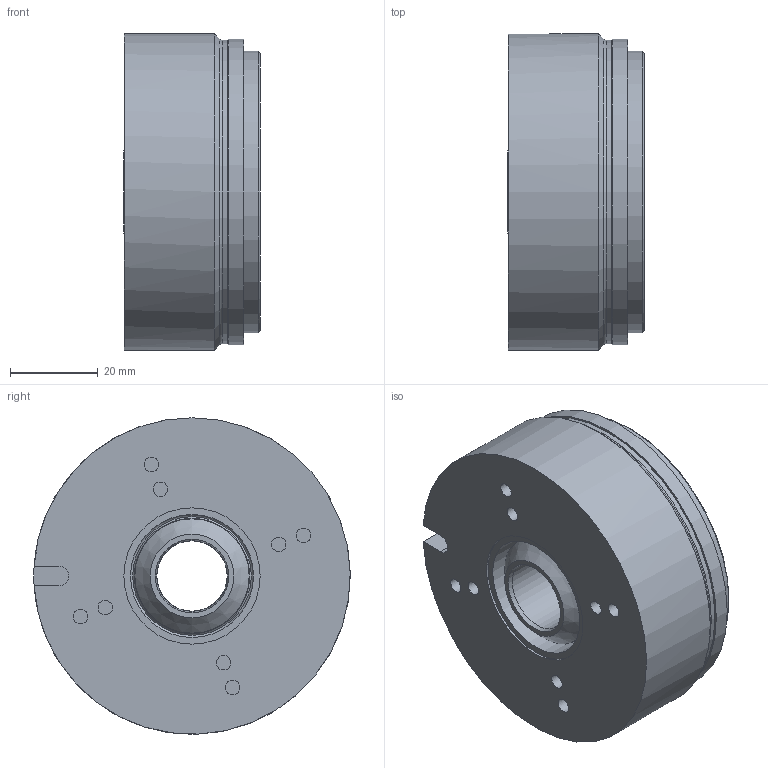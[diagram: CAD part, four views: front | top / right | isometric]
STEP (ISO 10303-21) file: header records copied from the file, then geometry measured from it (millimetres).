
FILE_DESCRIPTION (( 'STEP AP214' ), '1' );
FILE_NAME ('86 61107P00-0007_Index f.STEP', '2019-12-11T14:29:55', ( '' ), ( '' ), 'SwSTEP 2.0', 'SolidWorks 2018', '' );
FILE_SCHEMA (( 'AUTOMOTIVE_DESIGN' ));
Length unit declared in the file: millimetre
Products named in the file (1): 86 61107P00-0007_Index f
Bounding box: 31.13 x 72 x 72 mm (x, y, z)
Volume: 107890.2 mm3; surface area: 27100.6 mm2
Topology: 2 solids, 2 shells, 66 faces, 118 edges, 73 vertices
Faces by surface type: cylinder 27, plane 24, cone 7, torus 5, bspline 3
Full cylindrical faces by diameter (mm): 3.3 x8, 4.2 x3, 16 x1, 16.2 x1, 25 x1, 26 x1, 27 x1, 28 x1, 31 x1, 32.5 x1, 33.7 x1, 34.9 x1, 58.2 x1, 64 x1, 69 x1, 69.5 x1, 72 x1
Entity records: 4725 total; most frequent: CARTESIAN_POINT 3392, DIRECTION 254, ORIENTED_EDGE 152, EDGE_LOOP 134, AXIS2_PLACEMENT_3D 123, FACE_OUTER_BOUND 100, EDGE_CURVE 76, VERTEX_POINT 72
